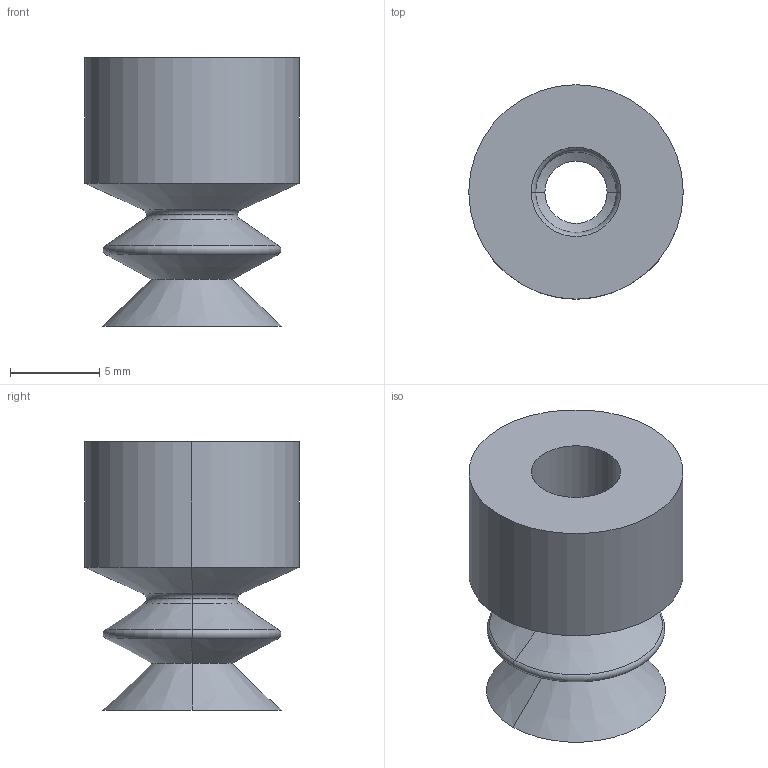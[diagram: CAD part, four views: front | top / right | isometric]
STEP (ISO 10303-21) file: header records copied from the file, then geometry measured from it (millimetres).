
FILE_DESCRIPTION (( 'STEP AP214' ), '1' );
FILE_NAME ('VSH2-S10.STEP', '2019-11-13T09:34:11', ( '微软用户' ), ( '微软中国' ), 'SwSTEP 2.0', 'SolidWorks 2016', '' );
FILE_SCHEMA (( 'AUTOMOTIVE_DESIGN' ));
Length unit declared in the file: millimetre
Products named in the file (1): VSH2-S10
Bounding box: 12 x 12 x 15 mm (x, y, z)
Volume: 586.1 mm3; surface area: 1247.6 mm2
Topology: 1 solids, 1 shells, 35 faces, 70 edges, 38 vertices
Faces by surface type: cone 16, torus 10, cylinder 6, plane 3
Entity records: 942 total; most frequent: DIRECTION 190, CARTESIAN_POINT 144, ORIENTED_EDGE 140, AXIS2_PLACEMENT_3D 84, EDGE_CURVE 70, CIRCLE 48, EDGE_LOOP 38, VERTEX_POINT 38
